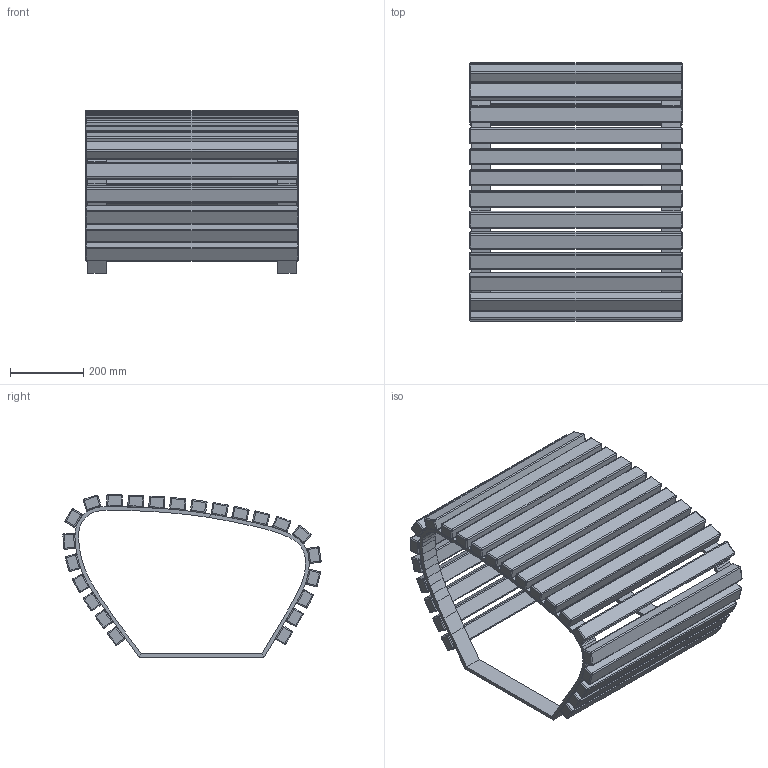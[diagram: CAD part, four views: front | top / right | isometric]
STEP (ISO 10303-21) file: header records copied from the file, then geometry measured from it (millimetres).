
FILE_DESCRIPTION(/* description */ (''),/* implementation_level */ '2;1');
FILE_NAME(/* name */ 'ENV02-B1_UAP_ENVIRON_Bench_3D',/* time_stamp */ '2018-01-23T20:34:45-05:00',/* author */ (''),/* organization */ (''),/* preprocessor_version */ 'ST-DEVELOPER v15',/* originating_system */ '',/* authorisation */ '');
FILE_SCHEMA (('AUTOMOTIVE_DESIGN'));
Length unit declared in the file: millimetre
Products named in the file (1): Document
Bounding box: 580 x 704.31 x 443.81 mm (x, y, z)
Volume: 19651174.9 mm3; surface area: 2398870.2 mm2
Topology: 29 solids, 29 shells, 850 faces, 2008 edges, 1032 vertices
Faces by surface type: bspline 472, plane 378
Entity records: 20906 total; most frequent: CARTESIAN_POINT 9092, ORIENTED_EDGE 3648, EDGE_CURVE 1824, B_SPLINE_CURVE_WITH_KNOTS 1272, VERTEX_POINT 1032, ADVANCED_FACE 850, FACE_OUTER_BOUND 850, EDGE_LOOP 850
